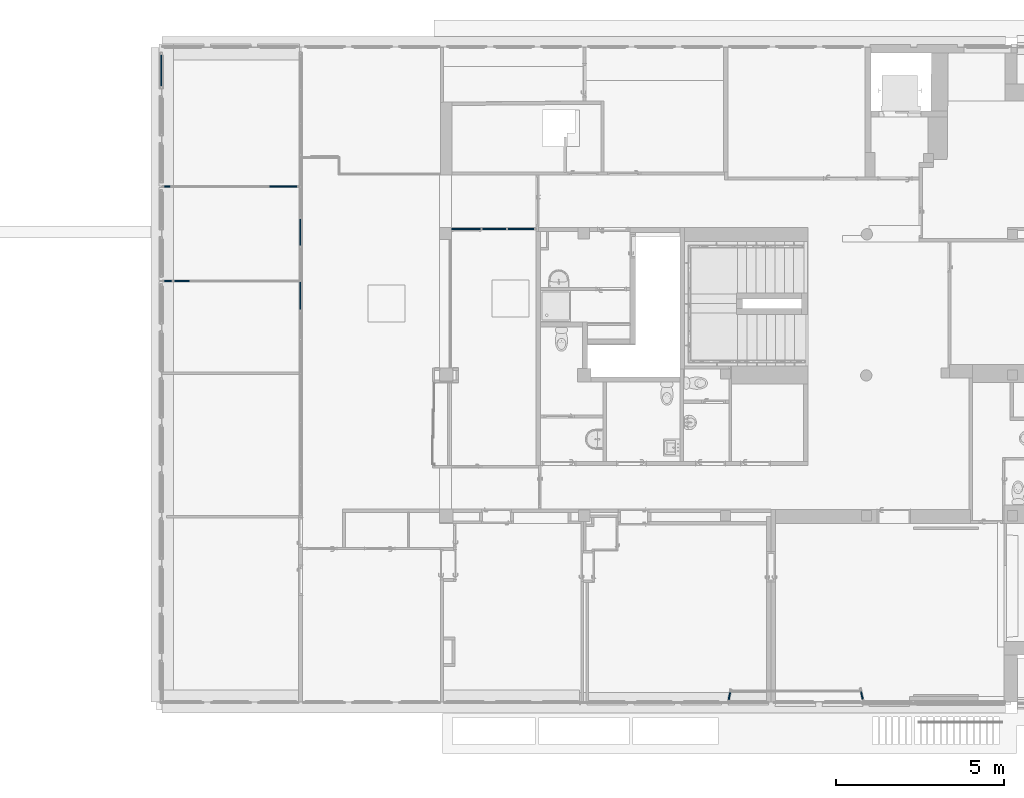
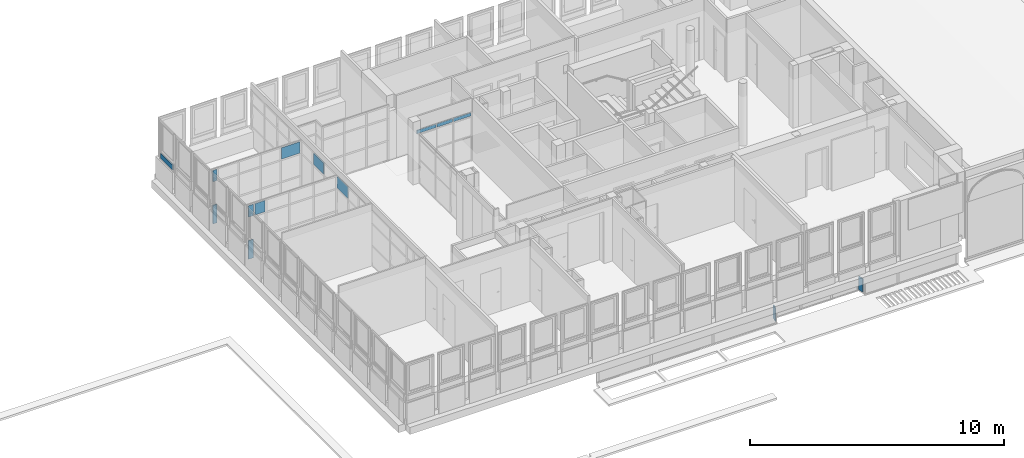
# One storey, part 35 of 97: 14 plates, 7 elements without a shape of their own.
"""IFC4 building model written with IfcOpenShell, lengths in metres."""

from ifc_helpers import new_model, entity, si_unit, converted_unit, derived_unit, direction, frame, origin, place, context, subcontext, project, spatial, indexed_curve, outline, extrude, shape, source, transform, mapped, material, layer, layer_set, type_object, type_shapes, element, aggregate, save


model = new_model("IFC4")

# Units and contexts
model_context = context("Model", 3, precision=1e-05, world=origin(), true_north=direction((6.12303176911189e-17, 1.0)))
body_context = subcontext(model_context, "Body", "Model", "MODEL_VIEW")
footprint_context = subcontext(model_context, "FootPrint", "Model", "MODEL_VIEW")
ifc_project = project(units=[si_unit("LENGTHUNIT", "METRE"), si_unit("AREAUNIT", "SQUARE_METRE"), si_unit("VOLUMEUNIT", "CUBIC_METRE"), converted_unit("PLANEANGLEUNIT", "DEGREE", entity("IfcRatioMeasure", 0.0174532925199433), si_unit("PLANEANGLEUNIT", "RADIAN"), dimensions=[0, 0, 0, 0, 0, 0, 0]), si_unit("MASSUNIT", "GRAM", prefix="KILO"), derived_unit("MASSDENSITYUNIT", [(si_unit("MASSUNIT", "GRAM", prefix="KILO"), 1), (si_unit("LENGTHUNIT", "METRE"), -3)]), derived_unit("MOMENTOFINERTIAUNIT", [(si_unit("LENGTHUNIT", "METRE"), 4)]), si_unit("TIMEUNIT", "SECOND"), si_unit("FREQUENCYUNIT", "HERTZ"), si_unit("THERMODYNAMICTEMPERATUREUNIT", "DEGREE_CELSIUS"), derived_unit("THERMALTRANSMITTANCEUNIT", [(si_unit("MASSUNIT", "GRAM", prefix="KILO"), 1), (si_unit("THERMODYNAMICTEMPERATUREUNIT", "KELVIN"), -1), (si_unit("TIMEUNIT", "SECOND"), -3)]), derived_unit("VOLUMETRICFLOWRATEUNIT", [(si_unit("LENGTHUNIT", "METRE"), 3), (si_unit("TIMEUNIT", "SECOND"), -1)]), si_unit("ELECTRICCURRENTUNIT", "AMPERE"), si_unit("ELECTRICVOLTAGEUNIT", "VOLT"), si_unit("POWERUNIT", "WATT"), si_unit("FORCEUNIT", "NEWTON", prefix="KILO"), si_unit("ILLUMINANCEUNIT", "LUX"), si_unit("LUMINOUSFLUXUNIT", "LUMEN"), si_unit("LUMINOUSINTENSITYUNIT", "CANDELA"), derived_unit("USERDEFINED", [(si_unit("MASSUNIT", "GRAM", prefix="KILO"), -1), (si_unit("LENGTHUNIT", "METRE"), -2), (si_unit("TIMEUNIT", "SECOND"), 3), (si_unit("LUMINOUSFLUXUNIT", "LUMEN"), 1)]), derived_unit("LINEARVELOCITYUNIT", [(si_unit("LENGTHUNIT", "METRE"), 1), (si_unit("TIMEUNIT", "SECOND"), -1)]), si_unit("PRESSUREUNIT", "PASCAL"), derived_unit("USERDEFINED", [(si_unit("LENGTHUNIT", "METRE"), -2), (si_unit("MASSUNIT", "GRAM", prefix="KILO"), 1), (si_unit("TIMEUNIT", "SECOND"), -2)]), derived_unit("LINEARFORCEUNIT", [(si_unit("MASSUNIT", "GRAM", prefix="KILO"), 1), (si_unit("LENGTHUNIT", "METRE"), 1), (si_unit("TIMEUNIT", "SECOND"), -2), (si_unit("LENGTHUNIT", "METRE"), -1)]), derived_unit("PLANARFORCEUNIT", [(si_unit("MASSUNIT", "GRAM", prefix="KILO"), 1), (si_unit("LENGTHUNIT", "METRE"), 1), (si_unit("TIMEUNIT", "SECOND"), -2), (si_unit("LENGTHUNIT", "METRE"), -2)])], contexts=[model_context])

# Site, building, storey
site_placement = place(None, origin())
site = spatial("IfcSite", under=ifc_project, at=site_placement, Name="Default", CompositionType="ELEMENT")
building_placement = place(site_placement, origin())
building = spatial("IfcBuilding", under=site, at=building_placement, Name="HOTEL CONSULAIRE BOULOGNE SUR MER", CompositionType="ELEMENT")
storey_placement = place(building_placement, frame((0.0, 0.0, 3.62152697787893)))
storey = spatial("IfcBuildingStorey", under=building, at=storey_placement, Name="Niveau 1", CompositionType="ELEMENT", Elevation=3.62152697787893)

# Curtain wall, plate
curtain_wall_type = type_object("IfcCurtainWallType", Name="Mur-rideau:Simple panneau", PredefinedType="NOTDEFINED")
curtain_wall_1_placement = place(storey_placement, frame((0.0, 0.0, -3.62152697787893)))
curtain_wall_1 = element("IfcCurtainWall", 1, at=curtain_wall_1_placement, inside=storey, type_object=curtain_wall_type, Name="Mur-rideau:Simple panneau", ObjectType="Mur-rideau:Simple panneau", PredefinedType="NOTDEFINED")
ifc_material = material(Name="Verre", Category="Verre")
ifc_layer_1 = layer(ifc_material, 0.04, Name="Verre", Category="Verre")
ifc_layer_set_1 = layer_set([ifc_layer_1], Name="Mur-rideau:Simple panneau")
plate_type_1 = type_object("IfcPlateType", Name="Panneau système:Vitré", PredefinedType="CURTAIN_PANEL", material=ifc_layer_set_1)
shared_shape_1 = source(origin(), body_context, "Body", "SweptSolid", [
    extrude(outline(indexed_curve([(-0.0200000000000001, -0.116499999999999), (0.0199999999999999, -0.116499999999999), (0.02, 0.116499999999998), (-0.02, 0.116499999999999), (-0.0200000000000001, -0.116499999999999)], self_intersect=False)), frame((0.116499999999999, 0.02, 0.0), z_axis=(0.0, 0.0, 1.0), x_axis=(0.0, 1.0, 0.0)), (0.0, 0.0, 1.0), 0.642526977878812),
])
shared_shape_2 = source(frame((-0.116500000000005, 0.00500000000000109, 0.0)), footprint_context, "FootPrint", "Curve2D", [
    entity("IfcIndexedPolyCurve", entity("IfcCartesianPointList2D", [[0.152009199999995, 0.00347600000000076], [0.152009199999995, 0.0434760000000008], [-0.0809908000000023, 0.0434760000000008], [-0.0809908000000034, 0.00347600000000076], [0.152009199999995, 0.00347600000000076]]), None, False),
])
type_shapes(plate_type_1, [shared_shape_1, shared_shape_2])
plate_1_placement = place(curtain_wall_1_placement, frame((3.09085913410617, -29.5010316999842, 2.36600000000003), z_axis=(0.0, 0.0, 1.0), x_axis=(0.190808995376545, 0.981627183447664, 0.0)))
plate_1 = element("IfcPlate", 2, at=plate_1_placement, type_object=plate_type_1, material=ifc_layer_set_1, Name="Panneau système:Vitré", ObjectType="Panneau système:Vitré", PredefinedType="CURTAIN_PANEL", shapes=[
    shape(body_context, "Body", "MappedRepresentation", [mapped(shared_shape_1, transform((0.0, 0.0, 0.0), scale=1.0))]),
    shape(body_context, "Body", "MappedRepresentation", [mapped(shared_shape_2, transform((0.0, 0.0, 0.0), scale=1.0))]),
])
aggregate(curtain_wall_1, [plate_1])

curtain_wall_2_placement = place(storey_placement, frame((0.0, 0.0, -3.62152697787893)))
curtain_wall_2 = element("IfcCurtainWall", 3, at=curtain_wall_2_placement, inside=storey, type_object=curtain_wall_type, Name="Mur-rideau:Simple panneau", ObjectType="Mur-rideau:Simple panneau", PredefinedType="NOTDEFINED")
plate_type_2 = type_object("IfcPlateType", Name="Panneau système:Vitré", PredefinedType="CURTAIN_PANEL", material=ifc_layer_set_1)
shared_shape_3 = source(origin(), body_context, "Body", "SweptSolid", [
    extrude(outline(indexed_curve([(-0.02, -0.125888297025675), (0.02, -0.125888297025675), (0.02, 0.125888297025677), (-0.02, 0.125888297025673), (-0.02, -0.125888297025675)], self_intersect=False)), frame((0.125888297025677, 0.02, 0.0), z_axis=(0.0, 0.0, 1.0), x_axis=(0.0, 1.0, 0.0)), (0.0, 0.0, 1.0), 0.642526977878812),
])
shared_shape_4 = source(frame((-0.125888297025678, -0.045, 0.0)), footprint_context, "FootPrint", "Curve2D", [
    entity("IfcIndexedPolyCurve", entity("IfcCartesianPointList2D", [[0.164259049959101, -0.031284], [0.164259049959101, 0.008716], [-0.0875175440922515, 0.00871600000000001], [-0.0875175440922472, -0.031284], [0.164259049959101, -0.031284]]), None, False),
])
type_shapes(plate_type_2, [shared_shape_3, shared_shape_4])
plate_2_placement = place(curtain_wall_2_placement, frame((7.08056810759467, -29.47980369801, 2.36600000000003), z_axis=(0.0, 0.0, 1.0), x_axis=(-0.207911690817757, 0.978147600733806, 0.0)))
plate_2 = element("IfcPlate", 4, at=plate_2_placement, type_object=plate_type_2, material=ifc_layer_set_1, Name="Panneau système:Vitré", ObjectType="Panneau système:Vitré", PredefinedType="CURTAIN_PANEL", shapes=[
    shape(body_context, "Body", "MappedRepresentation", [mapped(shared_shape_3, transform((0.0, 0.0, 0.0), scale=1.0))]),
    shape(body_context, "Body", "MappedRepresentation", [mapped(shared_shape_4, transform((0.0, 0.0, 0.0), scale=1.0))]),
])
aggregate(curtain_wall_2, [plate_2])

curtain_wall_3_placement = place(storey_placement, frame((0.0, 0.0, -3.62152697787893)))
curtain_wall_3 = element("IfcCurtainWall", 5, at=curtain_wall_3_placement, inside=storey, type_object=curtain_wall_type, Name="Mur-rideau:Simple panneau", ObjectType="Mur-rideau:Simple panneau", PredefinedType="NOTDEFINED")
plate_type_3 = type_object("IfcPlateType", Name="Panneau système:Vitré", PredefinedType="CURTAIN_PANEL", material=ifc_layer_set_1)
shared_shape_5 = source(origin(), body_context, "Body", "SweptSolid", [
    extrude(outline(indexed_curve([(-0.02, -0.470562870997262), (0.02, -0.470562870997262), (0.02, 0.470562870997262), (-0.02, 0.470562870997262), (-0.02, -0.470562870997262)], self_intersect=False)), frame((0.470562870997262, 0.02, 0.0), z_axis=(0.0, 0.0, 1.0), x_axis=(0.0, 1.0, 0.0)), (0.0, 0.0, 1.0), 0.243),
])
shared_shape_6 = source(frame((-0.470562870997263, 0.00500000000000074, 0.0)), footprint_context, "FootPrint", "Curve2D", [
    entity("IfcIndexedPolyCurve", entity("IfcCartesianPointList2D", [[0.613990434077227, 0.00347600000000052], [0.613990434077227, 0.0434760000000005], [-0.327135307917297, 0.0434760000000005], [-0.327135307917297, 0.00347600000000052], [0.613990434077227, 0.00347600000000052]]), None, False),
])
type_shapes(plate_type_3, [shared_shape_5, shared_shape_6])
plate_3_placement = place(curtain_wall_3_placement, frame((-13.7920998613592, -11.2414499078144, 4.48313951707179), z_axis=(0.0, 0.0, 1.0), x_axis=(0.0, 1.0, 0.0)))
plate_3 = element("IfcPlate", 6, at=plate_3_placement, type_object=plate_type_3, material=ifc_layer_set_1, Name="Panneau système:Vitré", ObjectType="Panneau système:Vitré", PredefinedType="CURTAIN_PANEL", shapes=[
    shape(body_context, "Body", "MappedRepresentation", [mapped(shared_shape_5, transform((0.0, 0.0, 0.0), scale=1.0))]),
    shape(body_context, "Body", "MappedRepresentation", [mapped(shared_shape_6, transform((0.0, 0.0, 0.0), scale=1.0))]),
])
aggregate(curtain_wall_3, [plate_3])

# Curtain wall, plates
curtain_wall_4_placement = place(storey_placement, frame((0.0, 0.0, -3.62152697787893)))
curtain_wall_4 = element("IfcCurtainWall", 7, at=curtain_wall_4_placement, inside=storey, type_object=curtain_wall_type, Name="Mur-rideau:Simple panneau", ObjectType="Mur-rideau:Simple panneau", PredefinedType="NOTDEFINED")
plate_type_4 = type_object("IfcPlateType", Name="Panneau système:Vitré", PredefinedType="CURTAIN_PANEL", material=ifc_layer_set_1)
shared_shape_7 = source(origin(), body_context, "Body", "SweptSolid", [
    extrude(outline(indexed_curve([(-0.02, -0.4165), (0.02, -0.4165), (0.02, 0.4165), (-0.02, 0.4165), (-0.02, -0.4165)], self_intersect=False)), frame((0.4165, 0.02, 0.0), z_axis=(0.0, 0.0, 1.0), x_axis=(0.0, 1.0, 0.0)), (0.0, 0.0, 1.0), 0.546),
])
shared_shape_8 = source(frame((-0.416499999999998, 0.00500000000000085, 0.0)), footprint_context, "FootPrint", "Curve2D", [
    entity("IfcIndexedPolyCurve", entity("IfcCartesianPointList2D", [[0.5434492, 0.00347600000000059], [0.5434492, 0.0434760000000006], [-0.289550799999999, 0.0434760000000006], [-0.289550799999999, 0.00347600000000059], [0.5434492, 0.00347600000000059]]), None, False),
])
type_shapes(plate_type_4, [shared_shape_7, shared_shape_8])
plate_4_placement = place(curtain_wall_4_placement, frame((-9.65462464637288, -17.8902596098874, 5.70248743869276), z_axis=(0.0, 0.0, 1.0), x_axis=(0.0, 1.0, 0.0)))
plate_4 = element("IfcPlate", 8, at=plate_4_placement, type_object=plate_type_4, material=ifc_layer_set_1, Name="Panneau système:Vitré", ObjectType="Panneau système:Vitré", PredefinedType="CURTAIN_PANEL", shapes=[
    shape(body_context, "Body", "MappedRepresentation", [mapped(shared_shape_7, transform((0.0, 0.0, 0.0), scale=1.0))]),
    shape(body_context, "Body", "MappedRepresentation", [mapped(shared_shape_8, transform((0.0, 0.0, 0.0), scale=1.0))]),
])
plate_type_5 = type_object("IfcPlateType", Name="Panneau système:Vitré", PredefinedType="CURTAIN_PANEL", material=ifc_layer_set_1)
shared_shape_9 = source(origin(), body_context, "Body", "SweptSolid", [
    extrude(outline(indexed_curve([(-0.02, -0.402499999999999), (0.02, -0.402499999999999), (0.02, 0.402499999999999), (-0.02, 0.402499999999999), (-0.02, -0.402499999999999)], self_intersect=False)), frame((0.402499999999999, 0.02, 0.0), z_axis=(0.0, 0.0, 1.0), x_axis=(0.0, 1.0, 0.0)), (0.0, 0.0, 1.0), 0.546),
])
shared_shape_10 = source(frame((-0.402499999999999, 0.00500000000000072, 0.0)), footprint_context, "FootPrint", "Curve2D", [
    entity("IfcIndexedPolyCurve", entity("IfcCartesianPointList2D", [[0.525181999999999, 0.0034760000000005], [0.525181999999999, 0.0434760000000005], [-0.279818, 0.0434760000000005], [-0.279818, 0.0034760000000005], [0.525181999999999, 0.0034760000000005]]), None, False),
])
type_shapes(plate_type_5, [shared_shape_9, shared_shape_10])
plate_5_placement = place(curtain_wall_4_placement, frame((-9.65462464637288, -15.9882596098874, 5.70248743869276), z_axis=(0.0, 0.0, 1.0), x_axis=(0.0, 1.0, 0.0)))
plate_5 = element("IfcPlate", 9, at=plate_5_placement, type_object=plate_type_5, material=ifc_layer_set_1, Name="Panneau système:Vitré", ObjectType="Panneau système:Vitré", PredefinedType="CURTAIN_PANEL", shapes=[
    shape(body_context, "Body", "MappedRepresentation", [mapped(shared_shape_9, transform((0.0, 0.0, 0.0), scale=1.0))]),
    shape(body_context, "Body", "MappedRepresentation", [mapped(shared_shape_10, transform((0.0, 0.0, 0.0), scale=1.0))]),
])
aggregate(curtain_wall_4, [plate_4, plate_5])

curtain_wall_5_placement = place(storey_placement, frame((0.0, 0.0, -3.62152697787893)))
curtain_wall_5 = element("IfcCurtainWall", 10, at=curtain_wall_5_placement, inside=storey, type_object=curtain_wall_type, Name="Mur-rideau:Simple panneau", ObjectType="Mur-rideau:Simple panneau", PredefinedType="NOTDEFINED")
ifc_layer_2 = layer(ifc_material, 0.04, Name="Verre", Category="Verre")
ifc_layer_set_2 = layer_set([ifc_layer_2], Name="Mur-rideau:Simple panneau")
plate_type_6 = type_object("IfcPlateType", Name="Panneau système:Plein", PredefinedType="CURTAIN_PANEL", material=ifc_layer_set_2)
shared_shape_11 = source(origin(), body_context, "Body", "SweptSolid", [
    extrude(outline(indexed_curve([(-0.02, -0.108), (0.02, -0.108), (0.02, 0.108), (-0.02, 0.108), (-0.02, -0.108)], self_intersect=False)), frame((0.108, 0.02, 0.0), z_axis=(0.0, 0.0, 1.0), x_axis=(0.0, 1.0, 0.0)), (0.0, 0.0, 1.0), 0.892),
])
shared_shape_12 = source(frame((-0.108000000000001, 0.00499999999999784, 0.0)), footprint_context, "FootPrint", "Curve2D", [
    entity("IfcIndexedPolyCurve", entity("IfcCartesianPointList2D", [[0.1409184, 0.0034759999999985], [0.1409184, 0.0434759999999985], [-0.0750816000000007, 0.0434759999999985], [-0.0750816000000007, 0.0034759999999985], [0.1409184, 0.0034759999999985]]), None, False),
])
type_shapes(plate_type_6, [shared_shape_11, shared_shape_12])
plate_6_placement = place(curtain_wall_5_placement, frame((-13.5021025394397, -17.0068458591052, 3.67152697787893), z_axis=(0.0, 0.0, 1.0), x_axis=(-1.0, 0.0, 0.0)))
plate_6 = element("IfcPlate", 11, at=plate_6_placement, type_object=plate_type_6, material=ifc_layer_set_2, Name="Panneau système:Plein", ObjectType="Panneau système:Plein", PredefinedType="CURTAIN_PANEL", shapes=[
    shape(body_context, "Body", "MappedRepresentation", [mapped(shared_shape_11, transform((0.0, 0.0, 0.0), scale=1.0))]),
    shape(body_context, "Body", "MappedRepresentation", [mapped(shared_shape_12, transform((0.0, 0.0, 0.0), scale=1.0))]),
])
plate_type_7 = type_object("IfcPlateType", Name="Panneau système:Vitré", PredefinedType="CURTAIN_PANEL", material=ifc_layer_set_1)
shared_shape_13 = source(origin(), body_context, "Body", "SweptSolid", [
    extrude(outline(indexed_curve([(-0.02, -0.232499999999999), (0.02, -0.232499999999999), (0.02, 0.232499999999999), (-0.02, 0.232499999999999), (-0.02, -0.232499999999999)], self_intersect=False)), frame((0.232499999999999, 0.02, 0.0), z_axis=(0.0, 0.0, 1.0), x_axis=(0.0, 1.0, 0.0)), (0.0, 0.0, 1.0), 0.546),
])
shared_shape_14 = source(frame((-0.232499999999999, 0.00500000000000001, 0.0)), footprint_context, "FootPrint", "Curve2D", [
    entity("IfcIndexedPolyCurve", entity("IfcCartesianPointList2D", [[0.303365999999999, 0.003476], [0.303365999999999, 0.043476], [-0.161633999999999, 0.043476], [-0.161633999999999, 0.003476], [0.303365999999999, 0.003476]]), None, False),
])
type_shapes(plate_type_7, [shared_shape_13, shared_shape_14])
plate_7_placement = place(curtain_wall_5_placement, frame((-12.9671025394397, -17.0068458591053, 5.70248743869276), z_axis=(0.0, 0.0, 1.0), x_axis=(-1.0, 0.0, 0.0)))
plate_7 = element("IfcPlate", 12, at=plate_7_placement, type_object=plate_type_7, material=ifc_layer_set_1, Name="Panneau système:Vitré", ObjectType="Panneau système:Vitré", PredefinedType="CURTAIN_PANEL", shapes=[
    shape(body_context, "Body", "MappedRepresentation", [mapped(shared_shape_13, transform((0.0, 0.0, 0.0), scale=1.0))]),
    shape(body_context, "Body", "MappedRepresentation", [mapped(shared_shape_14, transform((0.0, 0.0, 0.0), scale=1.0))]),
])
plate_type_8 = type_object("IfcPlateType", Name="Panneau système:Vitré", PredefinedType="CURTAIN_PANEL", material=ifc_layer_set_1)
shared_shape_15 = source(origin(), body_context, "Body", "SweptSolid", [
    extrude(outline(indexed_curve([(-0.02, -0.108), (0.02, -0.108), (0.02, 0.108), (-0.02, 0.108), (-0.02, -0.108)], self_intersect=False)), frame((0.108, 0.02, 0.0), z_axis=(0.0, 0.0, 1.0), x_axis=(0.0, 1.0, 0.0)), (0.0, 0.0, 1.0), 0.546),
])
shared_shape_16 = source(frame((-0.108000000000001, 0.00499999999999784, 0.0)), footprint_context, "FootPrint", "Curve2D", [
    entity("IfcIndexedPolyCurve", entity("IfcCartesianPointList2D", [[0.1409184, 0.0034759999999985], [0.1409184, 0.0434759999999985], [-0.0750816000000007, 0.0434759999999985], [-0.0750816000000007, 0.0034759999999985], [0.1409184, 0.0034759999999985]]), None, False),
])
type_shapes(plate_type_8, [shared_shape_15, shared_shape_16])
plate_8_placement = place(curtain_wall_5_placement, frame((-13.5021025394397, -17.0068458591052, 5.70248743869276), z_axis=(0.0, 0.0, 1.0), x_axis=(-1.0, 0.0, 0.0)))
plate_8 = element("IfcPlate", 13, at=plate_8_placement, type_object=plate_type_8, material=ifc_layer_set_1, Name="Panneau système:Vitré", ObjectType="Panneau système:Vitré", PredefinedType="CURTAIN_PANEL", shapes=[
    shape(body_context, "Body", "MappedRepresentation", [mapped(shared_shape_15, transform((0.0, 0.0, 0.0), scale=1.0))]),
    shape(body_context, "Body", "MappedRepresentation", [mapped(shared_shape_16, transform((0.0, 0.0, 0.0), scale=1.0))]),
])
aggregate(curtain_wall_5, [plate_6, plate_7, plate_8])

curtain_wall_6_placement = place(storey_placement, frame((0.0, 0.0, -3.62152697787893)))
curtain_wall_6 = element("IfcCurtainWall", 14, at=curtain_wall_6_placement, inside=storey, type_object=curtain_wall_type, Name="Mur-rideau:Simple panneau", ObjectType="Mur-rideau:Simple panneau", PredefinedType="NOTDEFINED")
plate_type_9 = type_object("IfcPlateType", Name="Panneau système:Plein", PredefinedType="CURTAIN_PANEL", material=ifc_layer_set_2)
shared_shape_17 = source(origin(), body_context, "Body", "SweptSolid", [
    extrude(outline(indexed_curve([(-0.02, -0.0885000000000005), (0.02, -0.0885000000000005), (0.02, 0.0885000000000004), (-0.02, 0.0885000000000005), (-0.02, -0.0885000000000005)], self_intersect=False)), frame((0.0885000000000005, 0.02, 0.0), z_axis=(0.0, 0.0, 1.0), x_axis=(0.0, 1.0, 0.0)), (0.0, 0.0, 1.0), 0.892),
])
shared_shape_18 = source(frame((-0.0885000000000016, 0.00500000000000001, 0.0)), footprint_context, "FootPrint", "Curve2D", [
    entity("IfcIndexedPolyCurve", entity("IfcCartesianPointList2D", [[0.1154748, 0.003476], [0.1154748, 0.043476], [-0.0615252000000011, 0.043476], [-0.0615252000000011, 0.003476], [0.1154748, 0.003476]]), None, False),
])
type_shapes(plate_type_9, [shared_shape_17, shared_shape_18])
plate_9_placement = place(curtain_wall_6_placement, frame((-13.7181025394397, -14.2424499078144, 3.67152697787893)))
plate_9 = element("IfcPlate", 15, at=plate_9_placement, type_object=plate_type_9, material=ifc_layer_set_2, Name="Panneau système:Plein", ObjectType="Panneau système:Plein", PredefinedType="CURTAIN_PANEL", shapes=[
    shape(body_context, "Body", "MappedRepresentation", [mapped(shared_shape_17, transform((0.0, 0.0, 0.0), scale=1.0))]),
    shape(body_context, "Body", "MappedRepresentation", [mapped(shared_shape_18, transform((0.0, 0.0, 0.0), scale=1.0))]),
])
plate_type_10 = type_object("IfcPlateType", Name="Panneau système:Vitré", PredefinedType="CURTAIN_PANEL", material=ifc_layer_set_1)
shared_shape_19 = source(origin(), body_context, "Body", "SweptSolid", [
    extrude(outline(indexed_curve([(-0.02, -0.0885000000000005), (0.02, -0.0885000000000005), (0.02, 0.0885000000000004), (-0.02, 0.0885000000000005), (-0.02, -0.0885000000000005)], self_intersect=False)), frame((0.0885000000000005, 0.02, 0.0), z_axis=(0.0, 0.0, 1.0), x_axis=(0.0, 1.0, 0.0)), (0.0, 0.0, 1.0), 0.546),
])
shared_shape_20 = source(frame((-0.0885000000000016, 0.00500000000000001, 0.0)), footprint_context, "FootPrint", "Curve2D", [
    entity("IfcIndexedPolyCurve", entity("IfcCartesianPointList2D", [[0.1154748, 0.003476], [0.1154748, 0.043476], [-0.0615252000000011, 0.043476], [-0.0615252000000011, 0.003476], [0.1154748, 0.003476]]), None, False),
])
type_shapes(plate_type_10, [shared_shape_19, shared_shape_20])
plate_10_placement = place(curtain_wall_6_placement, frame((-13.7181025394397, -14.2424499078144, 5.70248743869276)))
plate_10 = element("IfcPlate", 16, at=plate_10_placement, type_object=plate_type_10, material=ifc_layer_set_1, Name="Panneau système:Vitré", ObjectType="Panneau système:Vitré", PredefinedType="CURTAIN_PANEL", shapes=[
    shape(body_context, "Body", "MappedRepresentation", [mapped(shared_shape_19, transform((0.0, 0.0, 0.0), scale=1.0))]),
    shape(body_context, "Body", "MappedRepresentation", [mapped(shared_shape_20, transform((0.0, 0.0, 0.0), scale=1.0))]),
])
plate_type_11 = type_object("IfcPlateType", Name="Panneau système:Vitré", PredefinedType="CURTAIN_PANEL", material=ifc_layer_set_1)
shared_shape_21 = source(origin(), body_context, "Body", "SweptSolid", [
    extrude(outline(indexed_curve([(-0.02, -0.416737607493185), (0.02, -0.416737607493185), (0.02, 0.416737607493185), (-0.02, 0.416737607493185), (-0.02, -0.416737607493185)], self_intersect=False)), frame((0.416737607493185, 0.02, 0.0), z_axis=(0.0, 0.0, 1.0), x_axis=(0.0, 1.0, 0.0)), (0.0, 0.0, 1.0), 0.546),
])
shared_shape_22 = source(frame((-0.416737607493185, 0.00500000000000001, 0.0)), footprint_context, "FootPrint", "Curve2D", [
    entity("IfcIndexedPolyCurve", entity("IfcCartesianPointList2D", [[0.543759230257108, 0.003476], [0.543759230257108, 0.043476], [-0.289715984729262, 0.043476], [-0.289715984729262, 0.003476], [0.543759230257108, 0.003476]]), None, False),
])
type_shapes(plate_type_11, [shared_shape_21, shared_shape_22])
plate_11_placement = place(curtain_wall_6_placement, frame((-10.6030998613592, -14.2424499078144, 5.70248743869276)))
plate_11 = element("IfcPlate", 17, at=plate_11_placement, type_object=plate_type_11, material=ifc_layer_set_1, Name="Panneau système:Vitré", ObjectType="Panneau système:Vitré", PredefinedType="CURTAIN_PANEL", shapes=[
    shape(body_context, "Body", "MappedRepresentation", [mapped(shared_shape_21, transform((0.0, 0.0, 0.0), scale=1.0))]),
    shape(body_context, "Body", "MappedRepresentation", [mapped(shared_shape_22, transform((0.0, 0.0, 0.0), scale=1.0))]),
])
aggregate(curtain_wall_6, [plate_9, plate_10, plate_11])

curtain_wall_7_placement = place(storey_placement, frame((0.0, 0.0, -3.62152697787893)))
curtain_wall_7 = element("IfcCurtainWall", 18, at=curtain_wall_7_placement, inside=storey, type_object=curtain_wall_type, Name="Mur-rideau:Simple panneau", ObjectType="Mur-rideau:Simple panneau", PredefinedType="NOTDEFINED")
plate_type_12 = type_object("IfcPlateType", Name="Panneau système:Plein", PredefinedType="CURTAIN_PANEL", material=ifc_layer_set_2)
shared_shape_23 = source(origin(), body_context, "Body", "SweptSolid", [
    extrude(outline(indexed_curve([(-0.02, -0.433499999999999), (0.02, -0.433499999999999), (0.02, 0.433499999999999), (-0.02, 0.433499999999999), (-0.02, -0.433499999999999)], self_intersect=False)), frame((0.433499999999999, 0.02, 0.0), z_axis=(0.0, 0.0, 1.0), x_axis=(0.0, 1.0, 0.0)), (0.0, 0.0, 1.0), 0.1587),
])
shared_shape_24 = source(frame((-0.433499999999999, 0.00500000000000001, 0.0)), footprint_context, "FootPrint", "Curve2D", [
    entity("IfcIndexedPolyCurve", entity("IfcCartesianPointList2D", [[0.565630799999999, 0.003476], [0.565630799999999, 0.043476], [-0.3013692, 0.043476], [-0.3013692, 0.003476], [0.565630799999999, 0.003476]]), None, False),
])
type_shapes(plate_type_12, [shared_shape_23, shared_shape_24])
plate_12_placement = place(curtain_wall_7_placement, frame((-5.17252868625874, -15.5018590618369, 5.7799234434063)))
plate_12 = element("IfcPlate", 19, at=plate_12_placement, type_object=plate_type_12, material=ifc_layer_set_2, Name="Panneau système:Plein", ObjectType="Panneau système:Plein", PredefinedType="CURTAIN_PANEL", shapes=[
    shape(body_context, "Body", "MappedRepresentation", [mapped(shared_shape_23, transform((0.0, 0.0, 0.0), scale=1.0))]),
    shape(body_context, "Body", "MappedRepresentation", [mapped(shared_shape_24, transform((0.0, 0.0, 0.0), scale=1.0))]),
])
plate_type_13 = type_object("IfcPlateType", Name="Panneau système:Plein", PredefinedType="CURTAIN_PANEL", material=ifc_layer_set_2)
shared_shape_25 = source(origin(), body_context, "Body", "SweptSolid", [
    extrude(outline(indexed_curve([(-0.02, -0.355), (0.02, -0.355), (0.02, 0.355), (-0.02, 0.355), (-0.02, -0.355)], self_intersect=False)), frame((0.355, 0.02, 0.0), z_axis=(0.0, 0.0, 1.0), x_axis=(0.0, 1.0, 0.0)), (0.0, 0.0, 1.0), 0.1587),
])
shared_shape_26 = source(frame((-0.355, 0.00500000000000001, 0.0)), footprint_context, "FootPrint", "Curve2D", [
    entity("IfcIndexedPolyCurve", entity("IfcCartesianPointList2D", [[0.463204, 0.003476], [0.463204, 0.043476], [-0.246796, 0.043476], [-0.246796, 0.003476], [0.463204, 0.003476]]), None, False),
])
type_shapes(plate_type_13, [shared_shape_25, shared_shape_26])
plate_13_placement = place(curtain_wall_7_placement, frame((-4.25552868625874, -15.5018590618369, 5.7799234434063)))
plate_13 = element("IfcPlate", 20, at=plate_13_placement, type_object=plate_type_13, material=ifc_layer_set_2, Name="Panneau système:Plein", ObjectType="Panneau système:Plein", PredefinedType="CURTAIN_PANEL", shapes=[
    shape(body_context, "Body", "MappedRepresentation", [mapped(shared_shape_25, transform((0.0, 0.0, 0.0), scale=1.0))]),
    shape(body_context, "Body", "MappedRepresentation", [mapped(shared_shape_26, transform((0.0, 0.0, 0.0), scale=1.0))]),
])
plate_type_14 = type_object("IfcPlateType", Name="Panneau système:Plein", PredefinedType="CURTAIN_PANEL", material=ifc_layer_set_2)
shared_shape_27 = source(origin(), body_context, "Body", "SweptSolid", [
    extrude(outline(indexed_curve([(-0.02, -0.3925), (0.02, -0.3925), (0.02, 0.3925), (-0.02, 0.3925), (-0.02, -0.3925)], self_intersect=False)), frame((0.3925, 0.02, 0.0), z_axis=(0.0, 0.0, 1.0), x_axis=(0.0, 1.0, 0.0)), (0.0, 0.0, 1.0), 0.1587),
])
shared_shape_28 = source(frame((-0.3925, 0.00500000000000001, 0.0)), footprint_context, "FootPrint", "Curve2D", [
    entity("IfcIndexedPolyCurve", entity("IfcCartesianPointList2D", [[0.512134, 0.003476], [0.512134, 0.043476], [-0.272866, 0.043476], [-0.272866, 0.003476], [0.512134, 0.003476]]), None, False),
])
type_shapes(plate_type_14, [shared_shape_27, shared_shape_28])
plate_14_placement = place(curtain_wall_7_placement, frame((-3.49552868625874, -15.5018590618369, 5.7799234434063)))
plate_14 = element("IfcPlate", 21, at=plate_14_placement, type_object=plate_type_14, material=ifc_layer_set_2, Name="Panneau système:Plein", ObjectType="Panneau système:Plein", PredefinedType="CURTAIN_PANEL", shapes=[
    shape(body_context, "Body", "MappedRepresentation", [mapped(shared_shape_27, transform((0.0, 0.0, 0.0), scale=1.0))]),
    shape(body_context, "Body", "MappedRepresentation", [mapped(shared_shape_28, transform((0.0, 0.0, 0.0), scale=1.0))]),
])
aggregate(curtain_wall_7, [plate_12, plate_13, plate_14])

save(model, "model.ifc")
